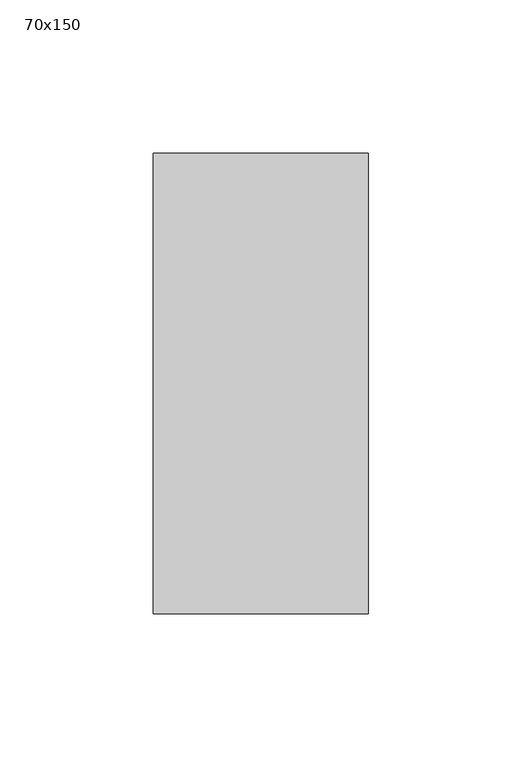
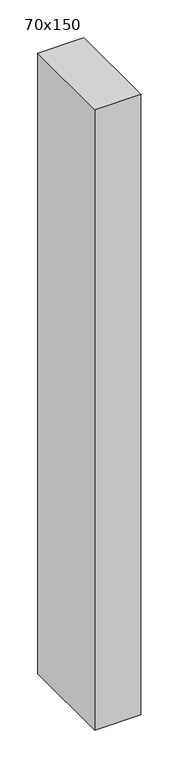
"""IFC4 building model written with IfcOpenShell, lengths in millimetres: member geometry, 長方形のマリオン : 70x150."""

from ifc_helpers import new_model, si_unit, frame, origin, place, context, project, spatial, polyline, outline, extrude, source, transform, mapped, element, save


def member_70x150_76429c73(model_context):
    return source(origin(), model_context, "Body", "SweptSolid", [
        extrude(outline(polyline([(0.0, 75.0), (0.0, -75.0), (-70.0, -75.0), (-70.0, 75.0), (0.0, 75.0)])), frame((0.0, 0.0, -1000.0), z_axis=(0.0, 0.0, 1.0), x_axis=(1.0, 0.0, 0.0)), (0.0, 0.0, 1.0), 1000.0),
    ])


if __name__ == "__main__":
    model = new_model("IFC4")
    model_context = context("Model", 3, world=origin())
    ifc_project = project(units=[si_unit("LENGTHUNIT", "METRE", prefix="MILLI")], contexts=[model_context])
    site = spatial("IfcSite", under=ifc_project)
    building = spatial("IfcBuilding", under=site)
    placement = place(None, origin())
    member_70x150_shape = member_70x150_76429c73(model_context)
    element("IfcMember", 1, ObjectType="長方形のマリオン : 70x150", at=placement, inside=building, context=model_context, shape_type="MappedRepresentation", body=[
        mapped(member_70x150_shape, transform((0.0, 0.0, 0.0), x_axis=(1.0, 0.0, 0.0), y_axis=(0.0, 1.0, 0.0), z_axis=(0.0, 0.0, 1.0))),
    ])
    save(model, "model.ifc")
